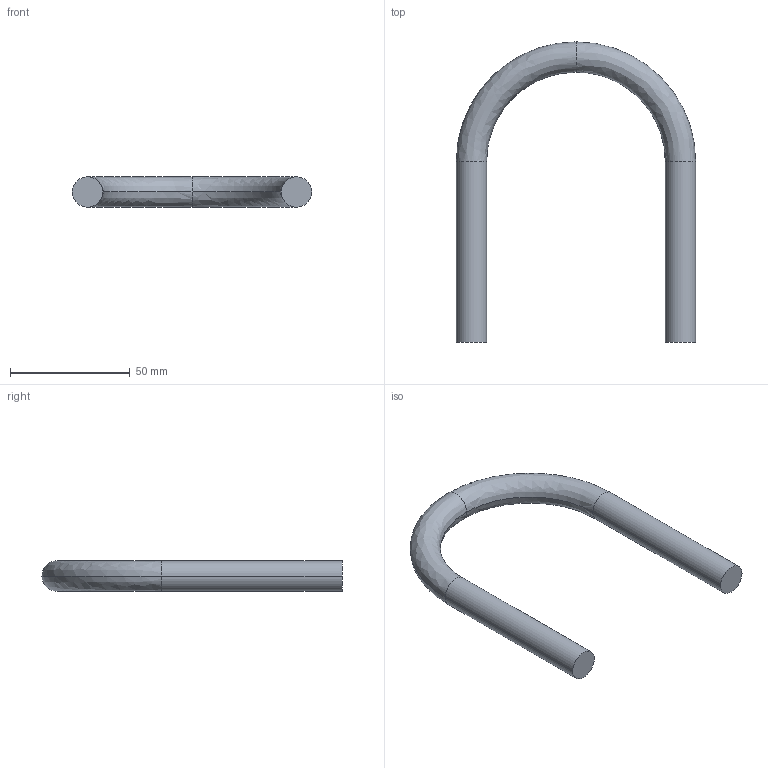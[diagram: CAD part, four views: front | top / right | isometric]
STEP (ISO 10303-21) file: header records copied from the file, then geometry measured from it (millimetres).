
FILE_DESCRIPTION(('TurboCAD Mac Pro'),'Build 980');
FILE_NAME('FUB-250.stp',' ',(''),(''),'ACIS Interop','IMSI','TurboCAD Mac Pro BY IMSI, INCORPORATED');
FILE_SCHEMA(('automotive_design'));
Length unit declared in the file: inch
Products named in the file (2): 1; 2
Bounding box: 100 x 125.4 x 12.7 mm (x, y, z)
Volume: 36446.9 mm3; surface area: 11737.8 mm2
Topology: 1 solids, 1 shells, 10 faces, 18 edges, 10 vertices
Faces by surface type: bspline 4, cylinder 4, plane 2
Entity records: 676 total; most frequent: CARTESIAN_POINT 330, DIRECTION 42, ORIENTED_EDGE 36, AXIS2_PLACEMENT_3D 18, EDGE_CURVE 18, STYLED_ITEM 15, PRESENTATION_STYLE_ASSIGNMENT 15, COLOUR_RGB 15
